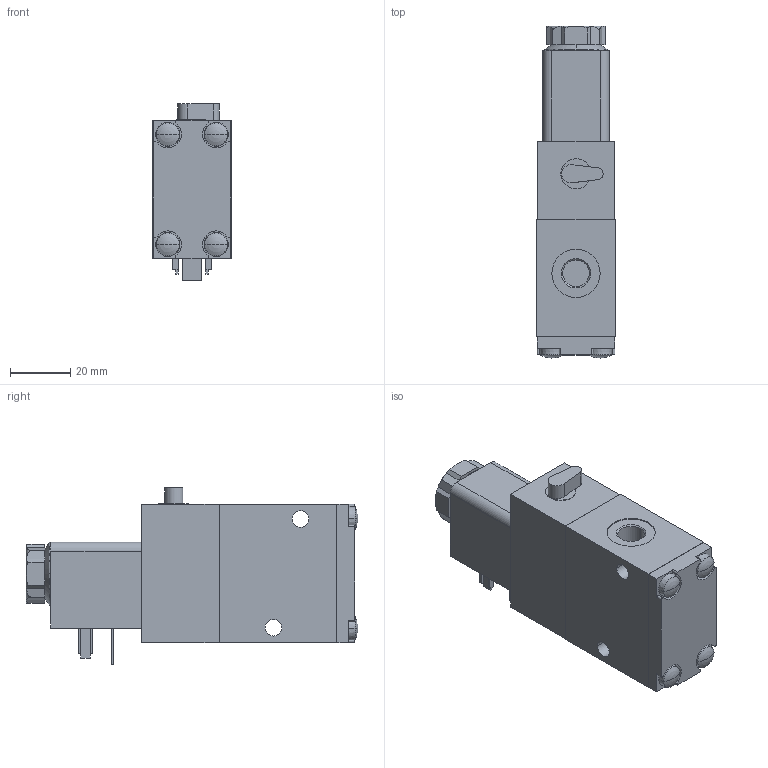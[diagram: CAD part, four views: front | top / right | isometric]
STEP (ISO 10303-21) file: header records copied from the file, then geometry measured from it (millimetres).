
FILE_DESCRIPTION((''),'2;1');
FILE_NAME('5772555220','2019-05-15T',('PDH2HC'),(''),'CREO PARAMETRIC BY PTC INC, 2016260','CREO PARAMETRIC BY PTC INC, 2016260','');
FILE_SCHEMA(('CONFIG_CONTROL_DESIGN'));
Length unit declared in the file: millimetre
Products named in the file (1): 5772555220
Bounding box: 26 x 110 x 58.5 mm (x, y, z)
Volume: 102369.8 mm3; surface area: 18685.8 mm2
Topology: 1 solids, 1 shells, 163 faces, 414 edges, 263 vertices
Faces by surface type: plane 96, cylinder 35, cone 20, sphere 8, torus 4
Entity records: 5157 total; most frequent: CARTESIAN_POINT 1152, DIRECTION 822, ORIENTED_EDGE 808, EDGE_CURVE 404, AXIS2_PLACEMENT_3D 277, VECTOR 268, LINE 268, VERTEX_POINT 263
